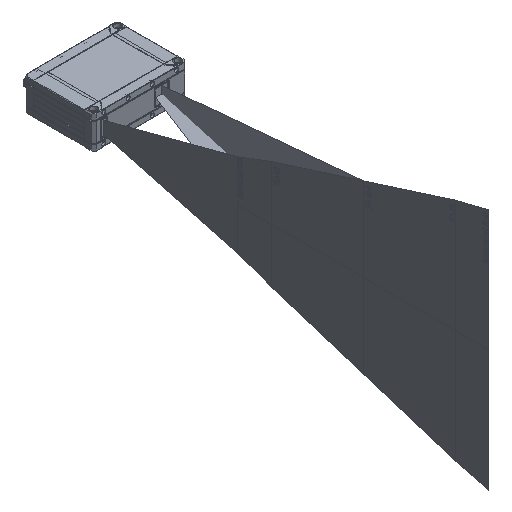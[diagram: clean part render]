
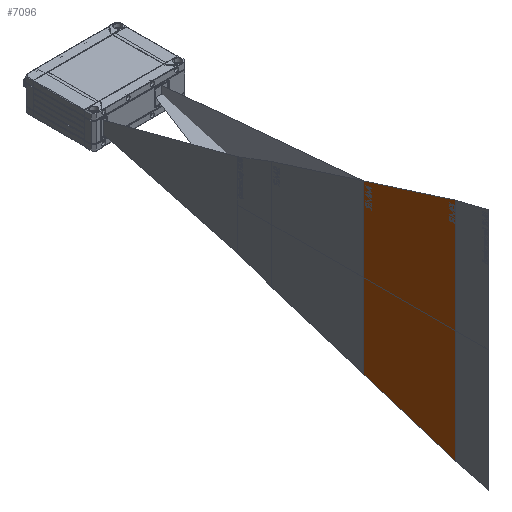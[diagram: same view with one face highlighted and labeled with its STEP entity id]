
A CAD part, isometric view. The second image highlights one B-rep face of the part: STEP entity #7096.
In plain terms, the highlighted planar face has unit normal (-1, 0, 0).
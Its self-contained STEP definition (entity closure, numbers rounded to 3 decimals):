
#1487 = EDGE_CURVE ( 'NONE', #59788, #75972, #42111, .T. ) ;
#3866 = CARTESIAN_POINT ( 'NONE',  ( -43.505, -310., 100. ) ) ;
#4957 = CARTESIAN_POINT ( 'NONE',  ( -43.505, 0., 0. ) ) ;
#7096 = ADVANCED_FACE ( 'NONE', ( #84784 ), #30076, .T. ) ;
#8859 = CARTESIAN_POINT ( 'NONE',  ( -43.505, -310., 100. ) ) ;
#12730 = VERTEX_POINT ( 'NONE', #93794 ) ;
#13371 = CARTESIAN_POINT ( 'NONE',  ( -43.505, -420., 135. ) ) ;
#14395 = VECTOR ( 'NONE', #93787, 1000. ) ;
#14775 = VERTEX_POINT ( 'NONE', #52428 ) ;
#20713 = DIRECTION ( 'NONE',  ( 0., 0., 1. ) ) ;
#22842 = CARTESIAN_POINT ( 'NONE',  ( -43.505, -310., -100. ) ) ;
#25360 = ORIENTED_EDGE ( 'NONE', *, *, #85610, .T. ) ;
#28012 = ORIENTED_EDGE ( 'NONE', *, *, #1487, .T. ) ;
#30076 = PLANE ( 'NONE',  #44826 ) ;
#33153 = ORIENTED_EDGE ( 'NONE', *, *, #75905, .T. ) ;
#35290 = VECTOR ( 'NONE', #81617, 1000. ) ;
#38435 = DIRECTION ( 'NONE',  ( 0., -1., 0. ) ) ;
#42111 = LINE ( 'NONE', #3866, #35290 ) ;
#44826 = AXIS2_PLACEMENT_3D ( 'NONE', #4957, #102042, #38435 ) ;
#48548 = CARTESIAN_POINT ( 'NONE',  ( -43.505, -310., 100. ) ) ;
#48676 = LINE ( 'NONE', #8859, #91784 ) ;
#49316 = CARTESIAN_POINT ( 'NONE',  ( -43.505, -420., 135. ) ) ;
#50272 = ORIENTED_EDGE ( 'NONE', *, *, #72288, .T. ) ;
#50839 = VECTOR ( 'NONE', #20713, 1000. ) ;
#50962 = EDGE_LOOP ( 'NONE', ( #25360, #33153, #50272, #28012 ) ) ;
#52428 = CARTESIAN_POINT ( 'NONE',  ( -43.505, -420., -135. ) ) ;
#59788 = VERTEX_POINT ( 'NONE', #49316 ) ;
#65134 = DIRECTION ( 'NONE',  ( 0., 0., -1. ) ) ;
#72288 = EDGE_CURVE ( 'NONE', #14775, #59788, #84300, .T. ) ;
#75905 = EDGE_CURVE ( 'NONE', #12730, #14775, #103226, .T. ) ;
#75972 = VERTEX_POINT ( 'NONE', #48548 ) ;
#81617 = DIRECTION ( 'NONE',  ( 0., 0.953, -0.303 ) ) ;
#84300 = LINE ( 'NONE', #13371, #50839 ) ;
#84784 = FACE_OUTER_BOUND ( 'NONE', #50962, .T. ) ;
#85610 = EDGE_CURVE ( 'NONE', #75972, #12730, #48676, .T. ) ;
#91784 = VECTOR ( 'NONE', #65134, 1000. ) ;
#93787 = DIRECTION ( 'NONE',  ( 0., -0.953, -0.303 ) ) ;
#93794 = CARTESIAN_POINT ( 'NONE',  ( -43.505, -310., -100. ) ) ;
#102042 = DIRECTION ( 'NONE',  ( -1., 0., 0. ) ) ;
#103226 = LINE ( 'NONE', #22842, #14395 ) ;
